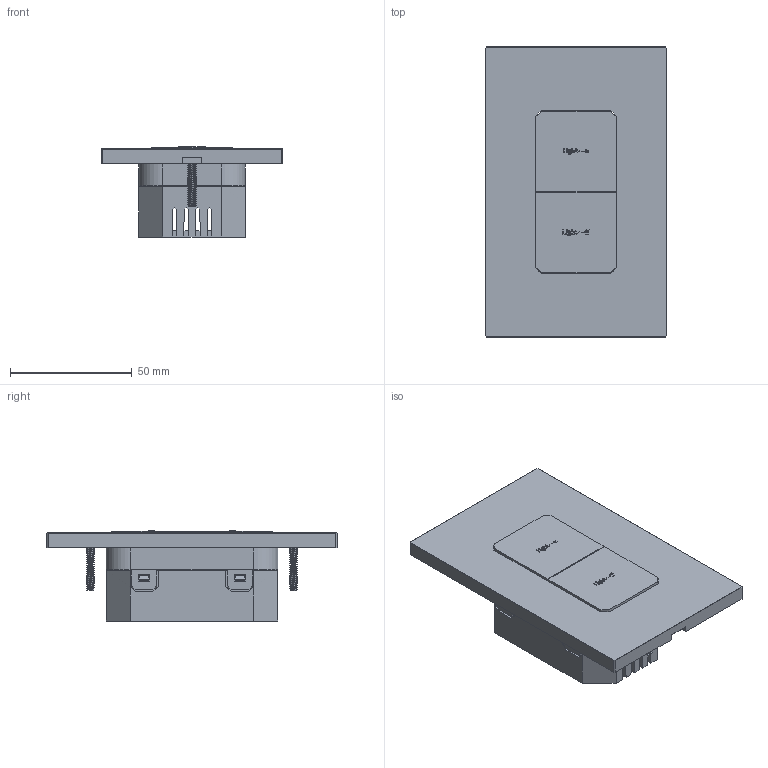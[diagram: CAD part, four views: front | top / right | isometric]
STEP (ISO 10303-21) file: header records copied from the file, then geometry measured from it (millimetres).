
FILE_DESCRIPTION(/* description */ (''),/* implementation_level */ '2;1');
FILE_NAME(/* name */ 'CASAMB~1',/* time_stamp */ '2026-02-02T17:00:16+08:00',/* author */ (''),/* organization */ (''),/* preprocessor_version */ 'ST-DEVELOPER v15',/* originating_system */ '',/* authorisation */ '');
FILE_SCHEMA (('AUTOMOTIVE_DESIGN'));
Length unit declared in the file: millimetre
Products named in the file (1): Document
Bounding box: 74.5 x 119 x 36.91 mm (x, y, z)
Volume: 95038.4 mm3; surface area: 85626.7 mm2
Topology: 31 solids, 33 shells, 1149 faces, 3385 edges, 2257 vertices
Faces by surface type: bspline 653, plane 496
Entity records: 58254 total; most frequent: CARTESIAN_POINT 37875, ORIENTED_EDGE 6504, EDGE_CURVE 3255, B_SPLINE_CURVE_WITH_KNOTS 2667, VERTEX_POINT 2179, EDGE_LOOP 1260, ADVANCED_FACE 1149, FACE_OUTER_BOUND 1149
